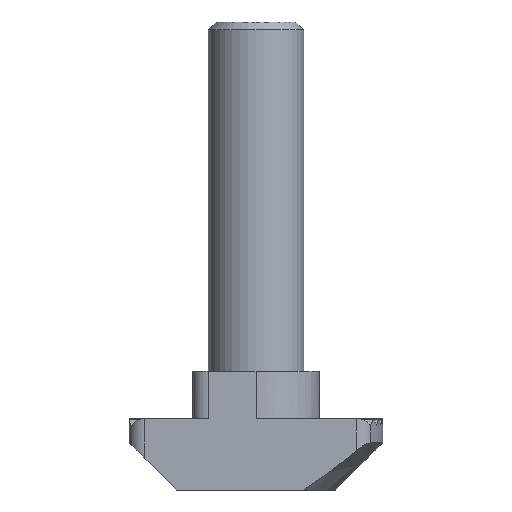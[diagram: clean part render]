
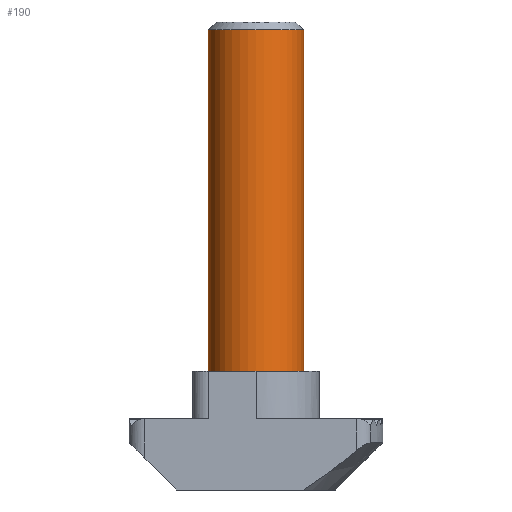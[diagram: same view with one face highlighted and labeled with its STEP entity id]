
A CAD part, front view. The second image highlights one B-rep face of the part: STEP entity #190.
In plain terms, the highlighted cylindrical face has radius 3 mm (diameter 6 mm), a partial arc.
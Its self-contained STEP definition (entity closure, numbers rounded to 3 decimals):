
#190=ADVANCED_FACE('NONE',(#461),#462,.T.);
#461=FACE_OUTER_BOUND('',#812,.T.);
#462=CYLINDRICAL_SURFACE('',#813,3.0);
#812=EDGE_LOOP('',(#1339,#1340,#1341,#1342));
#813=AXIS2_PLACEMENT_3D('',#1343,#1344,#1345);
#1339=ORIENTED_EDGE('',*,*,#2293,.F.);
#1340=ORIENTED_EDGE('',*,*,#2294,.T.);
#1341=ORIENTED_EDGE('',*,*,#2295,.T.);
#1342=ORIENTED_EDGE('',*,*,#2273,.T.);
#1343=CARTESIAN_POINT('',(0.0,0.0,-0.769));
#1344=DIRECTION('',(0.0,0.0,1.0));
#1345=DIRECTION('',(-1.0,0.0,0.0));
#2273=EDGE_CURVE('NONE',#2788,#2789,#2790,.T.);
#2293=EDGE_CURVE('NONE',#2820,#2789,#2821,.T.);
#2294=EDGE_CURVE('NONE',#2820,#2822,#2823,.T.);
#2295=EDGE_CURVE('NONE',#2822,#2788,#2824,.T.);
#2788=VERTEX_POINT('NONE',#3770);
#2789=VERTEX_POINT('NONE',#3771);
#2790=CIRCLE('',#3772,3.0);
#2820=VERTEX_POINT('NONE',#3937);
#2821=LINE('',#3938,#3939);
#2822=VERTEX_POINT('NONE',#3940);
#2823=CIRCLE('',#3941,3.0);
#2824=LINE('',#3942,#3943);
#3770=CARTESIAN_POINT('',(-3.0,0.0,7.5));
#3771=CARTESIAN_POINT('',(3.0,0.,7.5));
#3772=AXIS2_PLACEMENT_3D('',#4977,#4978,#4979);
#3937=CARTESIAN_POINT('',(3.0,0.,29.0));
#3938=CARTESIAN_POINT('',(3.0,0.,-0.769));
#3939=VECTOR('',#4987,1000.0);
#3940=CARTESIAN_POINT('',(-3.0,0.0,29.0));
#3941=AXIS2_PLACEMENT_3D('',#4988,#4989,#4990);
#3942=CARTESIAN_POINT('',(-3.0,0.0,-0.769));
#3943=VECTOR('',#4991,1000.0);
#4977=CARTESIAN_POINT('',(0.0,0.0,7.5));
#4978=DIRECTION('',(0.0,0.0,1.0));
#4979=DIRECTION('',(-1.0,0.0,0.0));
#4987=DIRECTION('',(-0.0,-0.0,-1.0));
#4988=CARTESIAN_POINT('',(0.0,0.0,29.0));
#4989=DIRECTION('',(0.0,0.0,-1.0));
#4990=DIRECTION('',(-1.0,0.0,0.0));
#4991=DIRECTION('',(-0.0,-0.0,-1.0));
